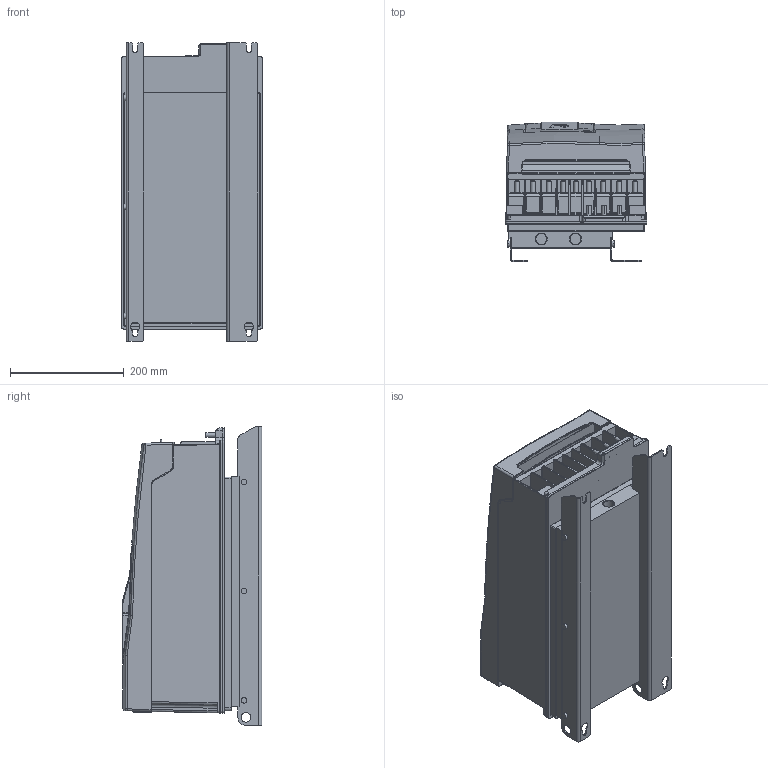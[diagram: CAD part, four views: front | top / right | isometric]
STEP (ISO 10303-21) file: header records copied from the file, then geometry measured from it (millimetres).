
FILE_DESCRIPTION (( 'STEP AP214' ), '1' );
FILE_NAME ('10078019_000.STEP', '2024-01-10T09:43:16', ( '' ), ( '' ), 'SwSTEP 2.0', 'SolidWorks 2022', '' );
FILE_SCHEMA (( 'AUTOMOTIVE_DESIGN' ));
Length unit declared in the file: millimetre
Products named in the file (13): 10078019_000; 10059764_000_Blindabdeckung (Kundenmodell); Kundenmodell^10035736_000; Kundemmodell^10027377_000; Kundenmodell^10077991_000; Kundenmodell^10061793_000; 10027377_000_Kundenmodell; 10077991_000_Kundenmodell; Kundenmodell^10059764_000; 10027052_000_Gehäusebaugruppe F6-6 (Kundenmodell); Kundenmodell^10027052_000; 10061793_000_Deckelbaugruppe F6-6 (Kundenmodell); 10035736_000_Kundenmodell
Assembly tree (12 placements, depth 4):
  10078019_000
    10077991_000_Kundenmodell
      10027377_000_Kundenmodell
        Kundemmodell^10027377_000
      Kundenmodell^10077991_000
    10027052_000_Gehäusebaugruppe F6-6 (Kundenmodell)
      10061793_000_Deckelbaugruppe F6-6 (Kundenmodell)
        Kundenmodell^10061793_000
      Kundenmodell^10027052_000
    10035736_000_Kundenmodell
      10059764_000_Blindabdeckung (Kundenmodell)
        Kundenmodell^10059764_000
      Kundenmodell^10035736_000
Bounding box: 249 x 245.4 x 525 mm (x, y, z)
Volume: 21185756.9 mm3; surface area: 1398367 mm2
Topology: 16 solids, 36 shells, 3055 faces, 7543 edges, 4481 vertices
Faces by surface type: cylinder 1094, plane 987, bspline 581, torus 155, sphere 133, cone 105
Entity records: 102176 total; most frequent: CARTESIAN_POINT 34281, ORIENTED_EDGE 14762, DIRECTION 13191, EDGE_CURVE 7381, AXIS2_PLACEMENT_3D 4801, VERTEX_POINT 4479, VECTOR 3589, LINE 3589
